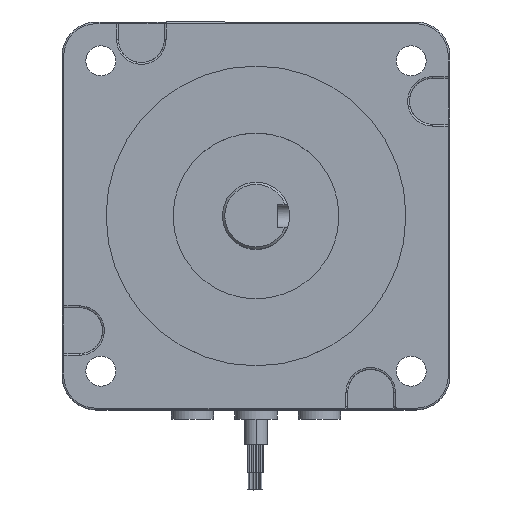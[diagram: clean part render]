
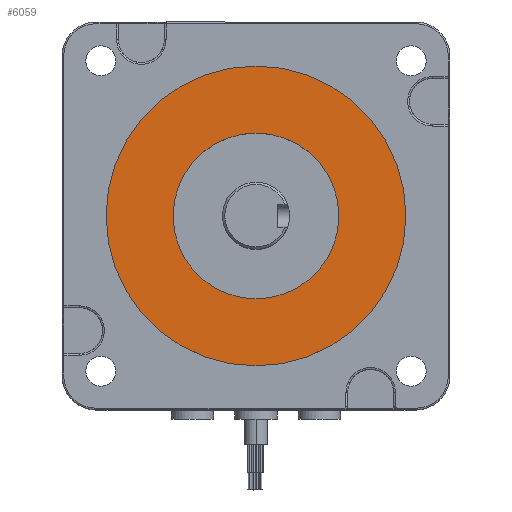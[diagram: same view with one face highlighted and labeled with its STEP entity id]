
A CAD part, top view. The second image highlights one B-rep face of the part: STEP entity #6059.
In plain terms, the highlighted planar face has unit normal (0, 0, 1).
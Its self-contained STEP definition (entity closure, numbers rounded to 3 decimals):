
#3523=CARTESIAN_POINT('',(0.,0.,9.878));
#3524=DIRECTION('',(0.,0.,-1.));
#3525=DIRECTION('',(-1.,0.,0.));
#3526=AXIS2_PLACEMENT_3D('',#3523,#3524,#3525);
#3528=CARTESIAN_POINT('',(0.,0.,9.878));
#3529=DIRECTION('',(0.,0.,-1.));
#3530=DIRECTION('',(1.,0.,0.));
#3531=AXIS2_PLACEMENT_3D('',#3528,#3529,#3530);
#3533=CARTESIAN_POINT('',(0.,0.,9.878));
#3534=DIRECTION('',(0.,0.,1.));
#3535=DIRECTION('',(1.,0.,0.));
#3536=AXIS2_PLACEMENT_3D('',#3533,#3534,#3535);
#3538=CARTESIAN_POINT('',(0.,0.,9.878));
#3539=DIRECTION('',(0.,0.,1.));
#3540=DIRECTION('',(-1.,0.,0.));
#3541=AXIS2_PLACEMENT_3D('',#3538,#3539,#3540);
#4020=CARTESIAN_POINT('',(42.5,0.,9.878));
#4021=VERTEX_POINT('',#4020);
#4022=CARTESIAN_POINT('',(-42.5,0.,9.878));
#4023=VERTEX_POINT('',#4022);
#4024=CARTESIAN_POINT('',(23.5,0.,9.878));
#4025=CARTESIAN_POINT('',(-23.5,0.,9.878));
#4026=VERTEX_POINT('',#4024);
#4027=VERTEX_POINT('',#4025);
#6044=CARTESIAN_POINT('',(0.,0.,9.878));
#6045=DIRECTION('',(0.,0.,1.));
#6046=DIRECTION('',(1.,0.,0.));
#6047=AXIS2_PLACEMENT_3D('',#6044,#6045,#6046);
#6048=PLANE('',#6047);
#6049=ORIENTED_EDGE('',*,*,#6024,.T.);
#6050=ORIENTED_EDGE('',*,*,#6038,.T.);
#6051=EDGE_LOOP('',(#6049,#6050));
#6052=FACE_OUTER_BOUND('',#6051,.F.);
#6054=ORIENTED_EDGE('',*,*,#6053,.T.);
#6056=ORIENTED_EDGE('',*,*,#6055,.T.);
#6057=EDGE_LOOP('',(#6054,#6056));
#6058=FACE_BOUND('',#6057,.F.);
#6059=ADVANCED_FACE('',(#6052,#6058),#6048,.T.);
#3527=CIRCLE('',#3526,42.5);
#3532=CIRCLE('',#3531,42.5);
#3537=CIRCLE('',#3536,23.5);
#3542=CIRCLE('',#3541,23.5);
#6024=EDGE_CURVE('',#4023,#4021,#3527,.T.);
#6038=EDGE_CURVE('',#4021,#4023,#3532,.T.);
#6053=EDGE_CURVE('',#4026,#4027,#3537,.T.);
#6055=EDGE_CURVE('',#4027,#4026,#3542,.T.);
